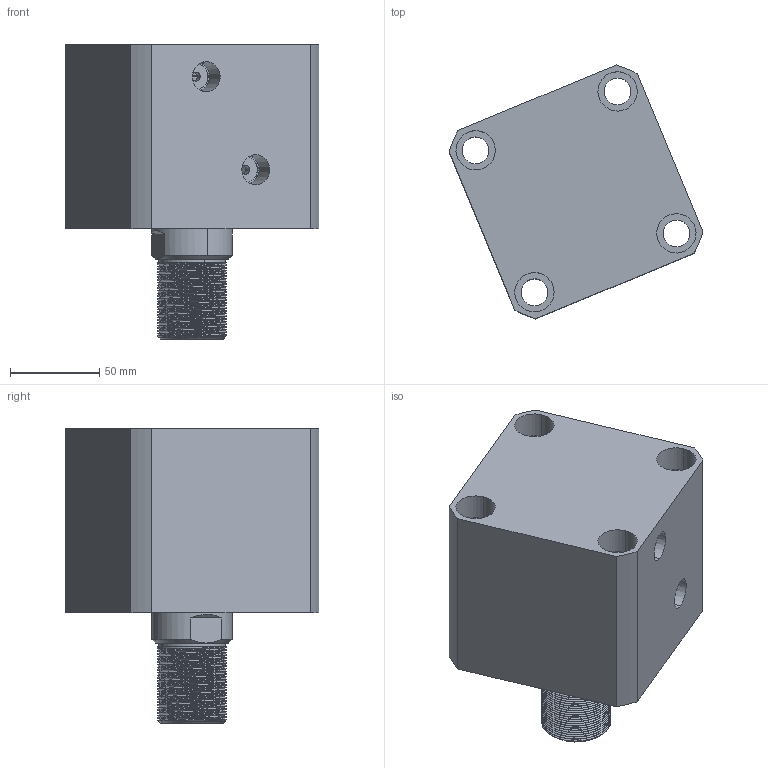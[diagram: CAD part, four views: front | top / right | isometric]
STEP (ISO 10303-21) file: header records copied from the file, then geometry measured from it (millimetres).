
FILE_DESCRIPTION (( 'STEP AP214' ), '1' );
FILE_NAME ('chtb-sd80x25n_asm.STEP', '2018-05-26T08:52:20', ( 'Windows' ), ( 'Microsoft' ), 'SwSTEP 2.0', 'SolidWorks 2015', '' );
FILE_SCHEMA (( 'AUTOMOTIVE_DESIGN' ));
Length unit declared in the file: millimetre
Products named in the file (4): CHTB-SD80X25NHSG; CHTB-SD80X25NBT; CHTB-SD80QG; chtb-sd80x25n_asm
Assembly tree (3 placements, depth 2):
  chtb-sd80x25n_asm
    CHTB-SD80QG
    CHTB-SD80X25NBT
    CHTB-SD80X25NHSG
Bounding box: 142.06 x 142.06 x 165 mm (x, y, z)
Volume: 1194685.2 mm3; surface area: 181786.1 mm2
Topology: 3 solids, 3 shells, 253 faces, 689 edges, 462 vertices
Faces by surface type: cylinder 159, plane 40, cone 20, torus 18, bspline 16
Entity records: 20271 total; most frequent: CARTESIAN_POINT 14293, ORIENTED_EDGE 1370, DIRECTION 1078, EDGE_CURVE 685, VERTEX_POINT 462, AXIS2_PLACEMENT_3D 439, EDGE_LOOP 291, FACE_OUTER_BOUND 253
